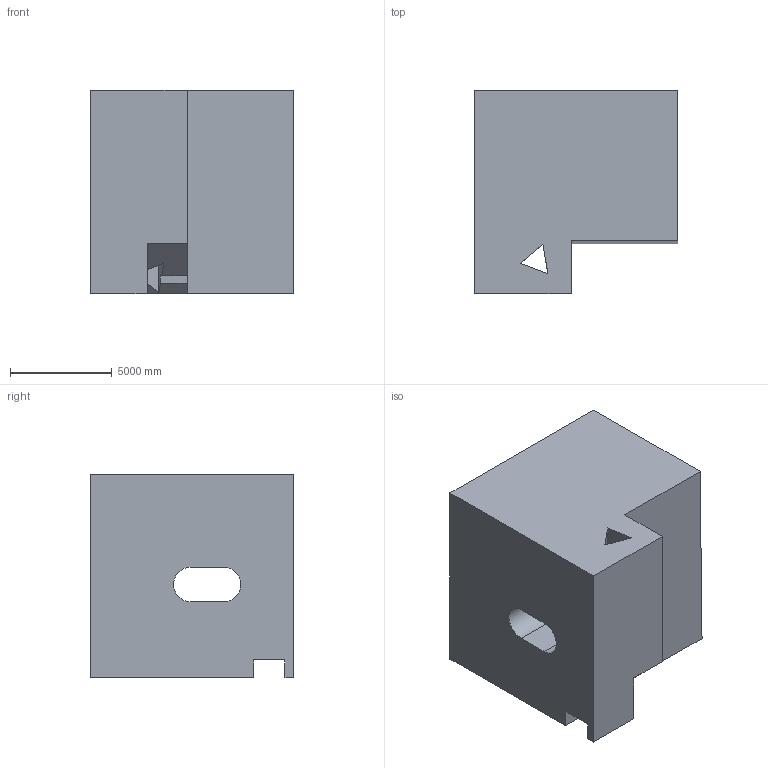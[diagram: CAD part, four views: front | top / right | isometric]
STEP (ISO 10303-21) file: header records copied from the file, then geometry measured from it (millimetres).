
FILE_DESCRIPTION (( 'STEP AP203' ), '1' );
FILE_NAME ('146.STEP', '2022-09-06T13:24:18', ( 'user' ), ( '' ), 'SwSTEP 2.0', 'SolidWorks 2021', '' );
FILE_SCHEMA (( 'CONFIG_CONTROL_DESIGN' ));
Length unit declared in the file: centimetre
Products named in the file (1): 146
Bounding box: 10000 x 10000 x 10000 mm (x, y, z)
Volume: 798723202440.7 mm3; surface area: 686476666.8 mm2
Topology: 1 solids, 1 shells, 25 faces, 71 edges, 47 vertices
Faces by surface type: plane 23, cylinder 2
Entity records: 886 total; most frequent: CARTESIAN_POINT 144, ORIENTED_EDGE 142, DIRECTION 127, EDGE_CURVE 71, LINE 67, VECTOR 67, VERTEX_POINT 47, AXIS2_PLACEMENT_3D 30
